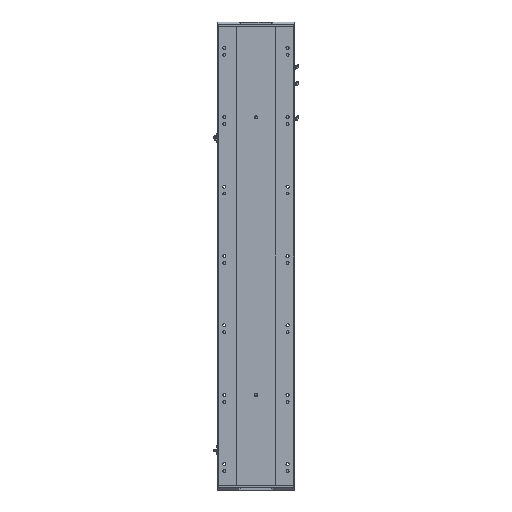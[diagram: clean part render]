
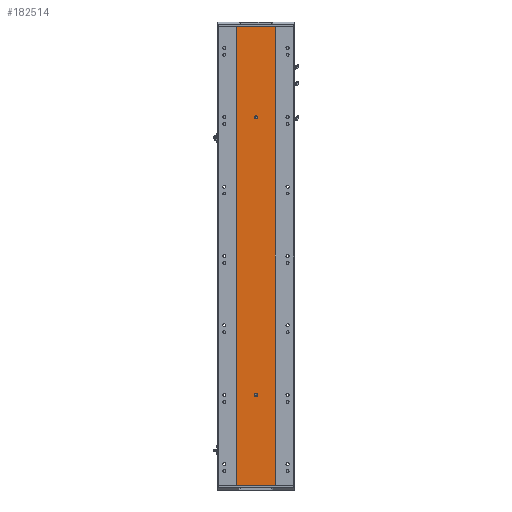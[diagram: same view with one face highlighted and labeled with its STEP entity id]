
A CAD part, front view. The second image highlights one B-rep face of the part: STEP entity #182514.
In plain terms, the highlighted planar face has unit normal (0, -1, 0).
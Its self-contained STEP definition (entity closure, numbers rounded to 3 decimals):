
#11255 = VERTEX_POINT ( 'NONE', #122352 ) ;
#17571 = DIRECTION ( 'NONE',  ( 0., -1., 0. ) ) ;
#25715 = VECTOR ( 'NONE', #158669, 1000. ) ;
#27261 = EDGE_CURVE ( 'NONE', #348871, #260325, #59767, .T. ) ;
#29665 = FACE_OUTER_BOUND ( 'NONE', #294743, .T. ) ;
#34695 = DIRECTION ( 'NONE',  ( 0., 0., -1. ) ) ;
#36896 = CARTESIAN_POINT ( 'NONE',  ( -4., 0., 1320. ) ) ;
#42105 = AXIS2_PLACEMENT_3D ( 'NONE', #75790, #416219, #214586 ) ;
#44379 = CARTESIAN_POINT ( 'NONE',  ( 0., 0., 0. ) ) ;
#49407 = LINE ( 'NONE', #308860, #86660 ) ;
#54796 = LINE ( 'NONE', #36896, #214983 ) ;
#59102 = AXIS2_PLACEMENT_3D ( 'NONE', #100516, #139234, #378090 ) ;
#59767 = CIRCLE ( 'NONE', #42105, 4. ) ;
#60067 = DIRECTION ( 'NONE',  ( 0., 1., 0. ) ) ;
#63003 = DIRECTION ( 'NONE',  ( 0., 0., 1. ) ) ;
#64346 = EDGE_LOOP ( 'NONE', ( #177475, #327043 ) ) ;
#75790 = CARTESIAN_POINT ( 'NONE',  ( 0., 0., 261. ) ) ;
#76602 = LINE ( 'NONE', #44379, #188853 ) ;
#78697 = DIRECTION ( 'NONE',  ( 1., 0., 0. ) ) ;
#82339 = VERTEX_POINT ( 'NONE', #117341 ) ;
#83177 = FACE_BOUND ( 'NONE', #64346, .T. ) ;
#86660 = VECTOR ( 'NONE', #392389, 1000. ) ;
#87687 = DIRECTION ( 'NONE',  ( 0., 0., -1. ) ) ;
#90101 = CARTESIAN_POINT ( 'NONE',  ( 55., 0., 1320. ) ) ;
#93035 = VECTOR ( 'NONE', #34695, 1000. ) ;
#95560 = LINE ( 'NONE', #185488, #213366 ) ;
#100516 = CARTESIAN_POINT ( 'NONE',  ( 0., 0., 1320. ) ) ;
#105469 = EDGE_CURVE ( 'NONE', #277107, #11255, #297768, .T. ) ;
#109584 = ORIENTED_EDGE ( 'NONE', *, *, #27261, .T. ) ;
#117341 = CARTESIAN_POINT ( 'NONE',  ( 55., 0., 0. ) ) ;
#117593 = CARTESIAN_POINT ( 'NONE',  ( 0., 0., 1060. ) ) ;
#119477 = CIRCLE ( 'NONE', #433241, 4. ) ;
#122300 = DIRECTION ( 'NONE',  ( 0., -1., 0. ) ) ;
#122352 = CARTESIAN_POINT ( 'NONE',  ( 0., 0., 1056. ) ) ;
#125243 = CARTESIAN_POINT ( 'NONE',  ( -55., 0., 0. ) ) ;
#127256 = CARTESIAN_POINT ( 'NONE',  ( 0., 0., 259. ) ) ;
#131681 = EDGE_CURVE ( 'NONE', #206463, #408778, #431796, .T. ) ;
#139234 = DIRECTION ( 'NONE',  ( 0., 1., 0. ) ) ;
#146750 = ORIENTED_EDGE ( 'NONE', *, *, #426357, .T. ) ;
#158669 = DIRECTION ( 'NONE',  ( 0., 0., -1. ) ) ;
#177475 = ORIENTED_EDGE ( 'NONE', *, *, #408303, .F. ) ;
#182514 = ADVANCED_FACE ( 'NONE', ( #83177, #302153, #29665 ), #202019, .F. ) ;
#183843 = LINE ( 'NONE', #90101, #93035 ) ;
#185488 = CARTESIAN_POINT ( 'NONE',  ( 0., 0., 1320. ) ) ;
#188853 = VECTOR ( 'NONE', #78697, 1000. ) ;
#202019 = PLANE ( 'NONE',  #59102 ) ;
#206463 = VERTEX_POINT ( 'NONE', #217990 ) ;
#213366 = VECTOR ( 'NONE', #422878, 1000. ) ;
#214586 = DIRECTION ( 'NONE',  ( 0., 0., 1. ) ) ;
#214983 = VECTOR ( 'NONE', #380162, 1000. ) ;
#217990 = CARTESIAN_POINT ( 'NONE',  ( -55., 0., 1320. ) ) ;
#240060 = EDGE_CURVE ( 'NONE', #408778, #82339, #76602, .T. ) ;
#241886 = EDGE_CURVE ( 'NONE', #419374, #312337, #119477, .T. ) ;
#254128 = CIRCLE ( 'NONE', #363462, 4. ) ;
#260325 = VERTEX_POINT ( 'NONE', #303344 ) ;
#273223 = ORIENTED_EDGE ( 'NONE', *, *, #417264, .F. ) ;
#277107 = VERTEX_POINT ( 'NONE', #364827 ) ;
#290892 = CARTESIAN_POINT ( 'NONE',  ( -4., 0., 259. ) ) ;
#293980 = AXIS2_PLACEMENT_3D ( 'NONE', #117593, #17571, #87687 ) ;
#294584 = CARTESIAN_POINT ( 'NONE',  ( -55., 0., 1320. ) ) ;
#294743 = EDGE_LOOP ( 'NONE', ( #331747, #273223, #423427, #313231 ) ) ;
#296951 = CARTESIAN_POINT ( 'NONE',  ( 0., 0., 1060. ) ) ;
#297768 = CIRCLE ( 'NONE', #293980, 4. ) ;
#302153 = FACE_BOUND ( 'NONE', #367987, .T. ) ;
#303344 = CARTESIAN_POINT ( 'NONE',  ( 4., 0., 261. ) ) ;
#308860 = CARTESIAN_POINT ( 'NONE',  ( 4., 0., 1320. ) ) ;
#312337 = VERTEX_POINT ( 'NONE', #290892 ) ;
#313231 = ORIENTED_EDGE ( 'NONE', *, *, #131681, .T. ) ;
#318903 = CARTESIAN_POINT ( 'NONE',  ( -4., 0., 261. ) ) ;
#321120 = CARTESIAN_POINT ( 'NONE',  ( 4., 0., 259. ) ) ;
#327043 = ORIENTED_EDGE ( 'NONE', *, *, #105469, .F. ) ;
#331747 = ORIENTED_EDGE ( 'NONE', *, *, #240060, .T. ) ;
#341780 = VERTEX_POINT ( 'NONE', #361444 ) ;
#347974 = EDGE_CURVE ( 'NONE', #312337, #348871, #54796, .T. ) ;
#348871 = VERTEX_POINT ( 'NONE', #318903 ) ;
#361444 = CARTESIAN_POINT ( 'NONE',  ( 55., 0., 1320. ) ) ;
#363462 = AXIS2_PLACEMENT_3D ( 'NONE', #296951, #122300, #396976 ) ;
#364827 = CARTESIAN_POINT ( 'NONE',  ( 0., 0., 1064. ) ) ;
#367987 = EDGE_LOOP ( 'NONE', ( #435566, #109584, #146750, #410444 ) ) ;
#378090 = DIRECTION ( 'NONE',  ( 0., 0., 1. ) ) ;
#380162 = DIRECTION ( 'NONE',  ( 0., 0., 1. ) ) ;
#383227 = EDGE_CURVE ( 'NONE', #206463, #341780, #95560, .T. ) ;
#392389 = DIRECTION ( 'NONE',  ( 0., 0., -1. ) ) ;
#396976 = DIRECTION ( 'NONE',  ( 0., 0., -1. ) ) ;
#408303 = EDGE_CURVE ( 'NONE', #11255, #277107, #254128, .T. ) ;
#408778 = VERTEX_POINT ( 'NONE', #125243 ) ;
#410444 = ORIENTED_EDGE ( 'NONE', *, *, #241886, .T. ) ;
#416219 = DIRECTION ( 'NONE',  ( 0., 1., 0. ) ) ;
#417264 = EDGE_CURVE ( 'NONE', #341780, #82339, #183843, .T. ) ;
#419374 = VERTEX_POINT ( 'NONE', #321120 ) ;
#422878 = DIRECTION ( 'NONE',  ( 1., 0., 0. ) ) ;
#423427 = ORIENTED_EDGE ( 'NONE', *, *, #383227, .F. ) ;
#426357 = EDGE_CURVE ( 'NONE', #260325, #419374, #49407, .T. ) ;
#431796 = LINE ( 'NONE', #294584, #25715 ) ;
#433241 = AXIS2_PLACEMENT_3D ( 'NONE', #127256, #60067, #63003 ) ;
#435566 = ORIENTED_EDGE ( 'NONE', *, *, #347974, .T. ) ;
